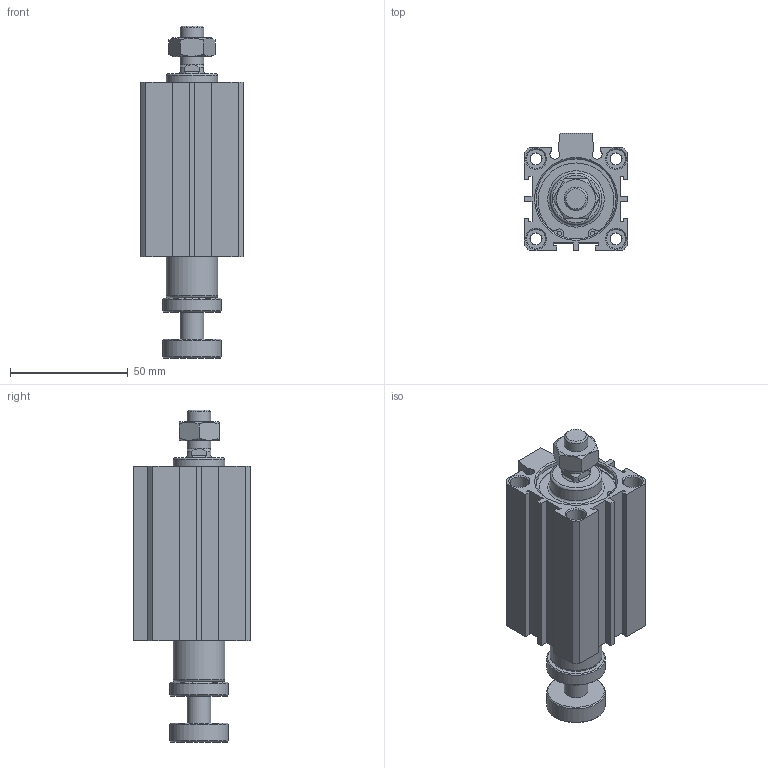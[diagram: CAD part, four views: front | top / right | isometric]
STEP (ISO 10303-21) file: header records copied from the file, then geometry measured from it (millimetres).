
FILE_DESCRIPTION((''),'2;1');
FILE_NAME('I:\3D電子目錄\氣缸\JDAR\JDAR-B\JDAR32-B\JDAR32x50-B.stp','2007-03-14T13:53:39',('662F206'),(''),'Autodesk Inventor 11','Autodesk Inventor 11','');
FILE_SCHEMA(('AUTOMOTIVE_DESIGN { 1 0 10303 214 1 1 1 1 }'));
Length unit declared in the file: millimetre
Products named in the file (3): JDAR32-B; R 形環 35
Assembly tree (3 placements, depth 2):
  JDAR32-B
    JDAR32-B
    R 形環 35  x2
Bounding box: 44 x 50 x 141.1 mm (x, y, z)
Volume: 142078.5 mm3; surface area: 36676.6 mm2
Topology: 3 solids, 3 shells, 180 faces, 421 edges, 273 vertices
Faces by surface type: plane 98, cylinder 53, cone 25, bspline 2, torus 2
Full cylindrical faces by diameter (mm): 1.9 x4, 2.2 x2, 5.1 x4, 8 x8, 10 x3, 22 x2, 25 x2, 34 x4, 36 x2
Entity records: 4639 total; most frequent: CARTESIAN_POINT 882, DIRECTION 784, ORIENTED_EDGE 664, EDGE_CURVE 332, AXIS2_PLACEMENT_3D 300, EDGE_LOOP 260, VERTEX_POINT 248, VECTOR 184
